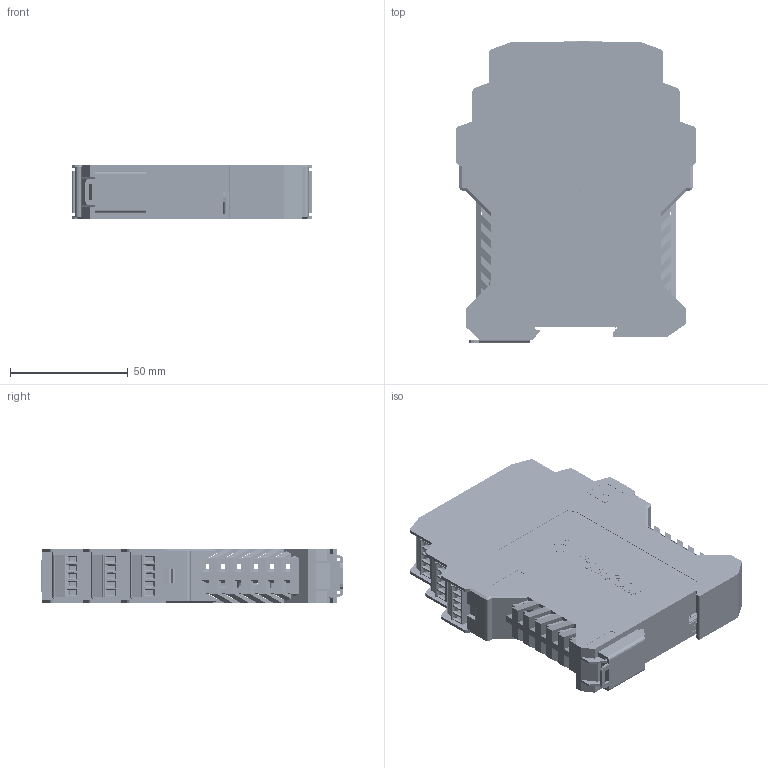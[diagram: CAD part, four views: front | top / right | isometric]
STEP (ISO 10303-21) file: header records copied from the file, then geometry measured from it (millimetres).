
FILE_DESCRIPTION(('STEP AP214'),'1');
FILE_NAME('ED-549 Cased 3D Step.step','2020-12-17T13:09:10',(' '),(' '),'Spatial InterOp 3D','XD3DPlugin XRACreate',' ');
FILE_SCHEMA(('automotive_design'));
Length unit declared in the file: millimetre
Products named in the file (58): Submodel-Input_S\82HEA3MM5TBX5_R_GREY_0.xtd; 82HEA3MM5TBX5_R_GREY_0; Submodel-82HEA3MM5TBX5_R_YELLOW_part_simplified_TBX5_RIGHT; DesignRootModel; Submodel-Input_S\82HEA3MM5TBX5_L_BLACK.xtd; 82HEA3MM5TBX5_L_BLACK; Submodel-82HEA3MM5TBX5_L_BLACK_part_simplified_TBX5_LEFT; Submodel-Input_S\SMD_ELEC_D.xtd; SMD_ELEC_D; Submodel-7547UF50V_part_simplified_SMD_ELEC_D; Submodel-Input_S\10NTA0315MC.xtd; 10NTA0315MC; Submodel-10NTA0315MC_part_simplified_NTA_MC10; Submodel-Input_S\50HEA3X1.xtd; 50HEA3X1; Submodel-50HEA3X1_part_simplified_H100MIL1X3; Submodel-Input_S\10NKE0303SC.xtd; 10NKE0303SC; Submodel-10NKE0303SC_part_simplified_SIP4; Submodel-Input_S\00MAGJACKILED.xtd; 00MAGJACKILED; Submodel-00MAGJACKILED_part_simplified_MAGJACK_LEDS; Submodel-Input_S\6610UH5A5.xtd; 6610UH5A5; Submodel-6610UH5A5_part_simplified_SRR1260; Submodel-Input_S\50HEA2X3.xtd; 50HEA2X3; Submodel-50HEA3X2_part_simplified_H100MIL2X3; Submodel-Input_S\LEDX2BLOCK_RESET_0.xtd; LEDX2BLOCK_RESET_0; Submodel-55LEDX2REDGREEN_part_simplified_LEDX2BLOCK; Submodel-Input_S\40SMTBUTTON_0.xtd; 40SMTBUTTON_0; Submodel-40SMTBUTTON_part_simplified_SMTBUTTON; Submodel-Input_S\SMC.xtd; SMC; Submodel-55TZ1K5SMC36V_part_simplified_SMC; Submodel-Input_S\50HEA4X2.xtd; 50HEA4X2; Submodel-50HEA4X2_part_simplified_H100MIL2X4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
Assembly tree (75 placements, depth 5):
  ED-549 Cased 3D Step
    DesignRootModel
      Submodel-82HEA3MM5TBX5_R_YELLOW_part_simplified_TBX5_RIGHT  x3
        Submodel-Input_S\82HEA3MM5TBX5_R_GREY_0.xtd
          82HEA3MM5TBX5_R_GREY_0
      Submodel-82HEA3MM5TBX5_L_BLACK_part_simplified_TBX5_LEFT  x3
        Submodel-Input_S\82HEA3MM5TBX5_L_BLACK.xtd
          82HEA3MM5TBX5_L_BLACK
      Submodel-7547UF50V_part_simplified_SMD_ELEC_D
        Submodel-Input_S\SMD_ELEC_D.xtd
          SMD_ELEC_D
      Submodel-10NTA0315MC_part_simplified_NTA_MC10
        Submodel-Input_S\10NTA0315MC.xtd
          10NTA0315MC
      Submodel-50HEA3X1_part_simplified_H100MIL1X3  x10
        Submodel-Input_S\50HEA3X1.xtd
          50HEA3X1
      Submodel-10NKE0303SC_part_simplified_SIP4
        Submodel-Input_S\10NKE0303SC.xtd
          10NKE0303SC
      Submodel-00MAGJACKILED_part_simplified_MAGJACK_LEDS
        Submodel-Input_S\00MAGJACKILED.xtd
          00MAGJACKILED
      Submodel-6610UH5A5_part_simplified_SRR1260
        Submodel-Input_S\6610UH5A5.xtd
          6610UH5A5
      Submodel-50HEA3X2_part_simplified_H100MIL2X3
        Submodel-Input_S\50HEA2X3.xtd
          50HEA2X3
      Submodel-55LEDX2REDGREEN_part_simplified_LEDX2BLOCK
        Submodel-Input_S\LEDX2BLOCK_RESET_0.xtd
          LEDX2BLOCK_RESET_0
      Submodel-40SMTBUTTON_part_simplified_SMTBUTTON
        Submodel-Input_S\40SMTBUTTON_0.xtd
          40SMTBUTTON_0
      Submodel-55TZ1K5SMC36V_part_simplified_SMC  x3
        Submodel-Input_S\SMC.xtd
          SMC
      Submodel-50HEA4X2_part_simplified_H100MIL2X4
        Submodel-Input_S\50HEA4X2.xtd
          50HEA4X2
      uid__9223372036854779830
      Submodel-AssyDefn_5  x2
        BrainboxesLogo.step
      Submodel-AssyDefn_4
        EDCase3Way.sat
      Submodel-DATUM_2441444698_part_DATUM
        Submodel-noModelForPart_DATUM_2441444698
          placementOutline
      Submodel-TOOLINGHOLE_399477976_part_TOOLINGHOLE  x2
        Submodel-noModelForPart_TOOLINGHOLE_399477976
          placementOutline
      Submodel-FIDUCIAL_3219705766_part_FIDUCIAL  x2
        Submodel-noModelForPart_FIDUCIAL_3219705766
          placementOutline
      Submodel-CHASSISPINS_566188278_part_CHASSISPINS
        Submodel-noModelForPart_CHASSISPINS_566188278
          placementOutline
Bounding box: 102 x 127.88 x 22.6 mm (x, y, z)
Volume: 111087.3 mm3; surface area: 139583.2 mm2
Topology: 277 solids, 277 shells, 15690 faces, 42066 edges, 27301 vertices
Faces by surface type: plane 12035, cylinder 2603, bspline 614, torus 212, cone 197, sphere 29
Full cylindrical faces by diameter (mm): 0.6 x2, 1 x1, 3 x1, 3.81 x1
Entity records: 501409 total; most frequent: CARTESIAN_POINT 84999, ORIENTED_EDGE 66754, DIRECTION 62636, EDGE_CURVE 33377, LINE 26802, VECTOR 26802, VERTEX_POINT 21656, AXIS2_PLACEMENT_3D 17917
